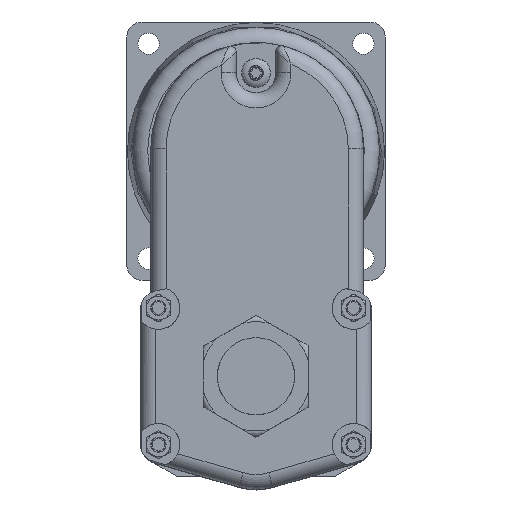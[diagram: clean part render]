
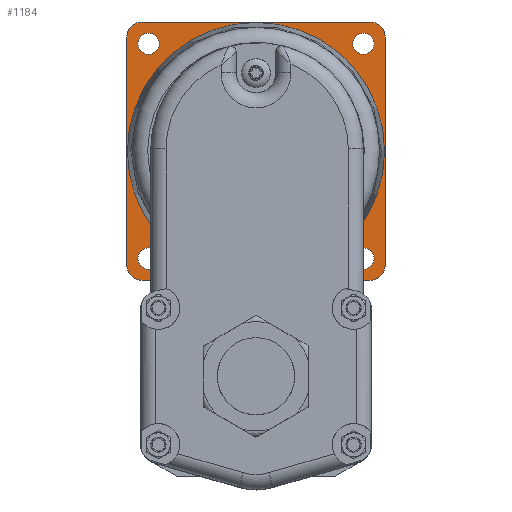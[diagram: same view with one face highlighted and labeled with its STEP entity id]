
A CAD part, top view. The second image highlights one B-rep face of the part: STEP entity #1184.
In plain terms, the highlighted planar face has unit normal (0, 0, 1).
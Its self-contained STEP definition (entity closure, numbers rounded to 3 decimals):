
#531 = EDGE_CURVE ( 'NONE', #9601, #9601, #4459, .T. ) ;
#582 = EDGE_CURVE ( 'NONE', #11407, #11372, #4539, .T. ) ;
#586 = EDGE_CURVE ( 'NONE', #9613, #9613, #4547, .T. ) ;
#588 = EDGE_CURVE ( 'NONE', #11334, #11363, #4541, .T. ) ;
#591 = EDGE_CURVE ( 'NONE', #9621, #9621, #4553, .T. ) ;
#592 = EDGE_CURVE ( 'NONE', #11372, #11334, #4555, .T. ) ;
#593 = EDGE_CURVE ( 'NONE', #11363, #11333, #4557, .T. ) ;
#594 = EDGE_CURVE ( 'NONE', #11333, #11361, #4546, .T. ) ;
#595 = EDGE_CURVE ( 'NONE', #11361, #11336, #4559, .T. ) ;
#596 = EDGE_CURVE ( 'NONE', #11336, #11388, #4545, .T. ) ;
#597 = EDGE_CURVE ( 'NONE', #11388, #11407, #4562, .T. ) ;
#599 = EDGE_CURVE ( 'NONE', #9623, #9623, #4564, .T. ) ;
#601 = EDGE_CURVE ( 'NONE', #9625, #9625, #4567, .T. ) ;
#1184 = ADVANCED_FACE ( 'NONE', ( #7325, #7328, #7332, #7334, #7329, #7327 ), #8521, .F. ) ;
#2094 = EDGE_LOOP ( 'NONE', ( #9959 ) ) ;
#2095 = EDGE_LOOP ( 'NONE', ( #9932 ) ) ;
#2096 = EDGE_LOOP ( 'NONE', ( #9980 ) ) ;
#2097 = EDGE_LOOP ( 'NONE', ( #9956, #9934, #9953, #9948, #9945, #9979, #9962, #9935 ) ) ;
#2098 = EDGE_LOOP ( 'NONE', ( #9952 ) ) ;
#2105 = EDGE_LOOP ( 'NONE', ( #9942 ) ) ;
#3743 = CARTESIAN_POINT ( 'NONE',  ( 0., 74.4, -11.3 ) ) ;
#3751 = DIRECTION ( 'NONE',  ( 0., 0., -1. ) ) ;
#3752 = DIRECTION ( 'NONE',  ( -1., 0., 0. ) ) ;
#4459 = CIRCLE ( 'NONE', #5010, 42.331 ) ;
#4539 = LINE ( 'NONE', #5674, #4540 ) ;
#4540 = VECTOR ( 'NONE', #5675, 1000. ) ;
#4541 = LINE ( 'NONE', #5691, #4548 ) ;
#4545 = LINE ( 'NONE', #5713, #4556 ) ;
#4546 = LINE ( 'NONE', #5708, #4554 ) ;
#4547 = CIRCLE ( 'NONE', #5037, 3.5 ) ;
#4548 = VECTOR ( 'NONE', #5692, 1000. ) ;
#4553 = CIRCLE ( 'NONE', #5043, 3.5 ) ;
#4554 = VECTOR ( 'NONE', #5709, 1000. ) ;
#4555 = CIRCLE ( 'NONE', #5044, 5. ) ;
#4556 = VECTOR ( 'NONE', #5714, 1000. ) ;
#4557 = CIRCLE ( 'NONE', #5041, 5. ) ;
#4559 = CIRCLE ( 'NONE', #5045, 5. ) ;
#4562 = CIRCLE ( 'NONE', #5046, 5. ) ;
#4564 = CIRCLE ( 'NONE', #5047, 3.5 ) ;
#4567 = CIRCLE ( 'NONE', #5034, 3.5 ) ;
#5010 = AXIS2_PLACEMENT_3D ( 'NONE', #3743, #3751, #3752 ) ;
#5034 = AXIS2_PLACEMENT_3D ( 'NONE', #5724, #5725, #5726 ) ;
#5037 = AXIS2_PLACEMENT_3D ( 'NONE', #5685, #5686, #5687 ) ;
#5041 = AXIS2_PLACEMENT_3D ( 'NONE', #5699, #5706, #5707 ) ;
#5043 = AXIS2_PLACEMENT_3D ( 'NONE', #5677, #5700, #5701 ) ;
#5044 = AXIS2_PLACEMENT_3D ( 'NONE', #5696, #5703, #5704 ) ;
#5045 = AXIS2_PLACEMENT_3D ( 'NONE', #5702, #5711, #5712 ) ;
#5046 = AXIS2_PLACEMENT_3D ( 'NONE', #5705, #5716, #5717 ) ;
#5047 = AXIS2_PLACEMENT_3D ( 'NONE', #5710, #5720, #5721 ) ;
#5388 = AXIS2_PLACEMENT_3D ( 'NONE', #8520, #8523, #8524 ) ;
#5674 = CARTESIAN_POINT ( 'NONE',  ( -42.5, 116.9, -11.3 ) ) ;
#5675 = DIRECTION ( 'NONE',  ( 0., -1., 0. ) ) ;
#5677 = CARTESIAN_POINT ( 'NONE',  ( -35.355, 39.045, -11.3 ) ) ;
#5685 = CARTESIAN_POINT ( 'NONE',  ( 35.355, 109.755, -11.3 ) ) ;
#5686 = DIRECTION ( 'NONE',  ( 0., 0., 1. ) ) ;
#5687 = DIRECTION ( 'NONE',  ( 1., 0., 0. ) ) ;
#5691 = CARTESIAN_POINT ( 'NONE',  ( -42.5, 31.9, -11.3 ) ) ;
#5692 = DIRECTION ( 'NONE',  ( 1., 0., 0. ) ) ;
#5696 = CARTESIAN_POINT ( 'NONE',  ( -37.5, 36.9, -11.3 ) ) ;
#5699 = CARTESIAN_POINT ( 'NONE',  ( 37.5, 36.9, -11.3 ) ) ;
#5700 = DIRECTION ( 'NONE',  ( 0., 0., 1. ) ) ;
#5701 = DIRECTION ( 'NONE',  ( 1., 0., 0. ) ) ;
#5702 = CARTESIAN_POINT ( 'NONE',  ( 37.5, 111.9, -11.3 ) ) ;
#5703 = DIRECTION ( 'NONE',  ( 0., 0., 1. ) ) ;
#5704 = DIRECTION ( 'NONE',  ( -1., 0., 0. ) ) ;
#5705 = CARTESIAN_POINT ( 'NONE',  ( -37.5, 111.9, -11.3 ) ) ;
#5706 = DIRECTION ( 'NONE',  ( 0., 0., 1. ) ) ;
#5707 = DIRECTION ( 'NONE',  ( -1., 0., 0. ) ) ;
#5708 = CARTESIAN_POINT ( 'NONE',  ( 42.5, 116.9, -11.3 ) ) ;
#5709 = DIRECTION ( 'NONE',  ( 0., 1., 0. ) ) ;
#5710 = CARTESIAN_POINT ( 'NONE',  ( 35.355, 39.045, -11.3 ) ) ;
#5711 = DIRECTION ( 'NONE',  ( 0., 0., 1. ) ) ;
#5712 = DIRECTION ( 'NONE',  ( -1., 0., 0. ) ) ;
#5713 = CARTESIAN_POINT ( 'NONE',  ( -42.5, 116.9, -11.3 ) ) ;
#5714 = DIRECTION ( 'NONE',  ( -1., 0., 0. ) ) ;
#5716 = DIRECTION ( 'NONE',  ( 0., 0., 1. ) ) ;
#5717 = DIRECTION ( 'NONE',  ( -1., 0., 0. ) ) ;
#5720 = DIRECTION ( 'NONE',  ( 0., 0., 1. ) ) ;
#5721 = DIRECTION ( 'NONE',  ( 1., 0., 0. ) ) ;
#5724 = CARTESIAN_POINT ( 'NONE',  ( -35.355, 109.755, -11.3 ) ) ;
#5725 = DIRECTION ( 'NONE',  ( 0., 0., 1. ) ) ;
#5726 = DIRECTION ( 'NONE',  ( 1., 0., 0. ) ) ;
#7325 = FACE_BOUND ( 'NONE', #2105, .T. ) ;
#7327 = FACE_BOUND ( 'NONE', #2094, .T. ) ;
#7328 = FACE_BOUND ( 'NONE', #2098, .T. ) ;
#7329 = FACE_BOUND ( 'NONE', #2095, .T. ) ;
#7332 = FACE_OUTER_BOUND ( 'NONE', #2097, .T. ) ;
#7334 = FACE_BOUND ( 'NONE', #2096, .T. ) ;
#8520 = CARTESIAN_POINT ( 'NONE',  ( 42.5, 116.9, -11.3 ) ) ;
#8521 = PLANE ( 'NONE',  #5388 ) ;
#8523 = DIRECTION ( 'NONE',  ( 0., 0., -1. ) ) ;
#8524 = DIRECTION ( 'NONE',  ( -1., 0., 0. ) ) ;
#9334 = CARTESIAN_POINT ( 'NONE',  ( 42.5, 36.9, -11.3 ) ) ;
#9335 = CARTESIAN_POINT ( 'NONE',  ( -37.5, 31.9, -11.3 ) ) ;
#9337 = CARTESIAN_POINT ( 'NONE',  ( 37.5, 116.9, -11.3 ) ) ;
#9362 = CARTESIAN_POINT ( 'NONE',  ( 42.5, 111.9, -11.3 ) ) ;
#9364 = CARTESIAN_POINT ( 'NONE',  ( 37.5, 31.9, -11.3 ) ) ;
#9373 = CARTESIAN_POINT ( 'NONE',  ( -42.5, 36.9, -11.3 ) ) ;
#9389 = CARTESIAN_POINT ( 'NONE',  ( -37.5, 116.9, -11.3 ) ) ;
#9408 = CARTESIAN_POINT ( 'NONE',  ( -42.5, 111.9, -11.3 ) ) ;
#9601 = VERTEX_POINT ( 'NONE', #9602 ) ;
#9602 = CARTESIAN_POINT ( 'NONE',  ( -42.331, 74.4, -11.3 ) ) ;
#9613 = VERTEX_POINT ( 'NONE', #9614 ) ;
#9614 = CARTESIAN_POINT ( 'NONE',  ( 38.855, 109.755, -11.3 ) ) ;
#9621 = VERTEX_POINT ( 'NONE', #9622 ) ;
#9622 = CARTESIAN_POINT ( 'NONE',  ( -31.855, 39.045, -11.3 ) ) ;
#9623 = VERTEX_POINT ( 'NONE', #9624 ) ;
#9624 = CARTESIAN_POINT ( 'NONE',  ( 38.855, 39.045, -11.3 ) ) ;
#9625 = VERTEX_POINT ( 'NONE', #9626 ) ;
#9626 = CARTESIAN_POINT ( 'NONE',  ( -31.855, 109.755, -11.3 ) ) ;
#9932 = ORIENTED_EDGE ( 'NONE', *, *, #601, .F. ) ;
#9934 = ORIENTED_EDGE ( 'NONE', *, *, #592, .T. ) ;
#9935 = ORIENTED_EDGE ( 'NONE', *, *, #597, .T. ) ;
#9942 = ORIENTED_EDGE ( 'NONE', *, *, #586, .F. ) ;
#9945 = ORIENTED_EDGE ( 'NONE', *, *, #594, .T. ) ;
#9948 = ORIENTED_EDGE ( 'NONE', *, *, #593, .T. ) ;
#9952 = ORIENTED_EDGE ( 'NONE', *, *, #591, .F. ) ;
#9953 = ORIENTED_EDGE ( 'NONE', *, *, #588, .T. ) ;
#9956 = ORIENTED_EDGE ( 'NONE', *, *, #582, .T. ) ;
#9959 = ORIENTED_EDGE ( 'NONE', *, *, #531, .T. ) ;
#9962 = ORIENTED_EDGE ( 'NONE', *, *, #596, .T. ) ;
#9979 = ORIENTED_EDGE ( 'NONE', *, *, #595, .T. ) ;
#9980 = ORIENTED_EDGE ( 'NONE', *, *, #599, .F. ) ;
#11333 = VERTEX_POINT ( 'NONE', #9334 ) ;
#11334 = VERTEX_POINT ( 'NONE', #9335 ) ;
#11336 = VERTEX_POINT ( 'NONE', #9337 ) ;
#11361 = VERTEX_POINT ( 'NONE', #9362 ) ;
#11363 = VERTEX_POINT ( 'NONE', #9364 ) ;
#11372 = VERTEX_POINT ( 'NONE', #9373 ) ;
#11388 = VERTEX_POINT ( 'NONE', #9389 ) ;
#11407 = VERTEX_POINT ( 'NONE', #9408 ) ;
